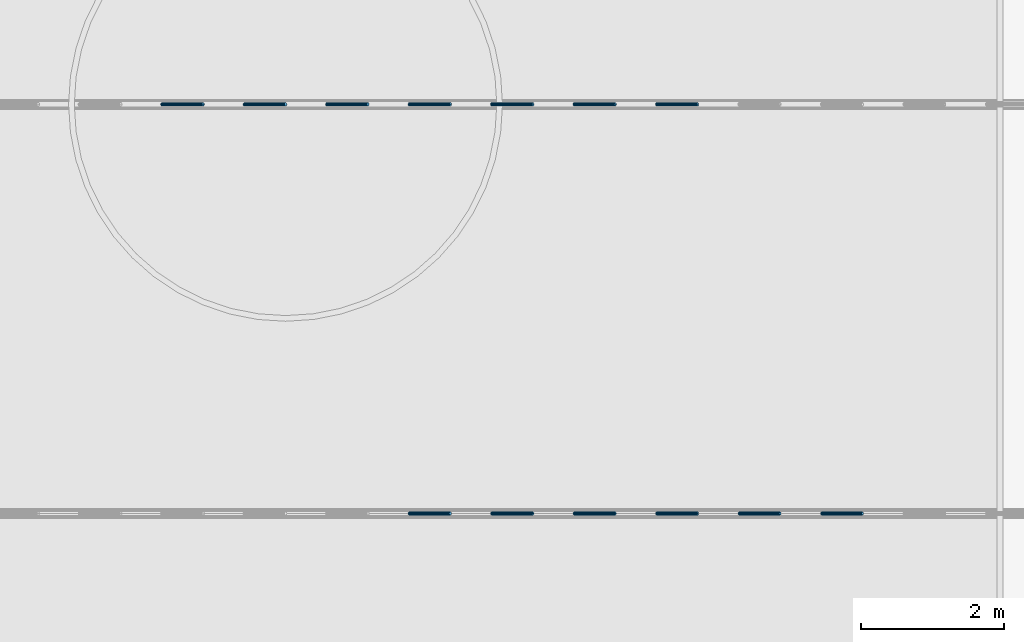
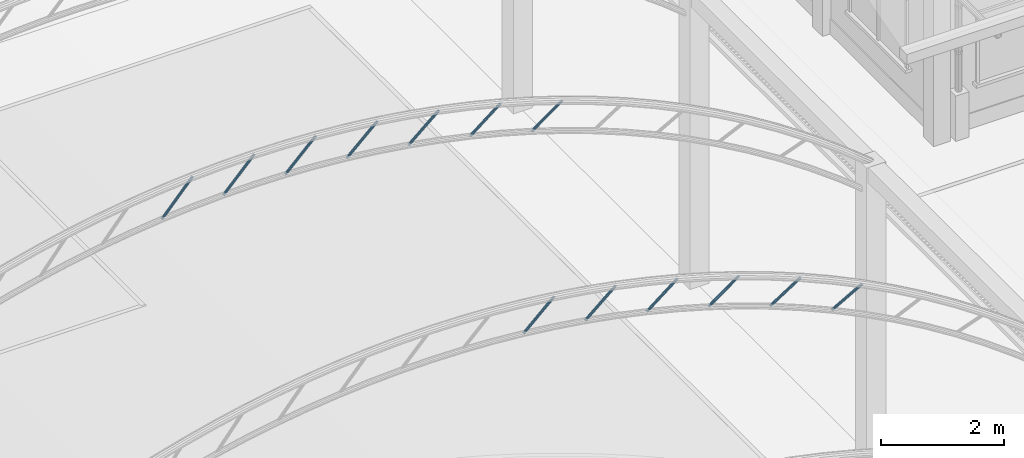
# One storey, part 27 of 151: 13 beams.
"""IFC2X3 building model written with IfcOpenShell, lengths in metres."""

import ifcopenshell
import ifcopenshell.guid

model = None  # the IFC model being written
_history = None  # IfcOwnerHistory: only IFC2X3 demands one
_inside = {}  # id of a spatial element -> (the spatial element, [elements in it])
_under = {}  # id of a project, library or spatial element -> (it, [spatial elements below it])
_declared = {}  # id of a project -> (the project, [libraries it declares])
_typed = {}  # id of a type object -> (the type object, [elements of that type])
_made_of = {}  # id of a material, layer set ... -> (it, [elements and type objects made of it])


def new_model(schema):
    """Start an empty IFC model of exactly this schema.

    Asked for "IFC4X3", IfcOpenShell would pick the latest addendum, in which some entities
    have other attributes; the version numbers below select the first issue.
    IFC2X3 requires an IfcOwnerHistory on every rooted entity: one is made here for all.
    """
    global model, _history
    if schema == "IFC4X3":
        model = ifcopenshell.file(schema_version=(4, 3, 0, 0))
    else:
        model = ifcopenshell.file(schema=schema)
    _inside.clear()
    _under.clear()
    _declared.clear()
    _typed.clear()
    _made_of.clear()
    _history = None
    if model.schema == "IFC2X3":
        org = make("IfcOrganization", Name="unknown")
        user = make(
            "IfcPersonAndOrganization",
            ThePerson=make("IfcPerson", FamilyName="unknown"),
            TheOrganization=org,
        )
        app = make(
            "IfcApplication",
            ApplicationDeveloper=org,
            Version="unknown",
            ApplicationFullName="unknown",
            ApplicationIdentifier="unknown",
        )
        _history = make(
            "IfcOwnerHistory",
            OwningUser=user,
            OwningApplication=app,
            ChangeAction="ADDED",
            CreationDate=0,
        )
    return model


def make(cls, **values):
    """One entity of the class cls with the attributes given. An attribute that is None is left unset."""
    return model.create_entity(
        cls, **{name: value for name, value in values.items() if value is not None}
    )


def rooted(cls, **values):
    """An entity with a GlobalId (a new one), such as an element, a storey or a relation."""
    return make(cls, GlobalId=ifcopenshell.guid.new(), OwnerHistory=_history, **values)


def si_unit(unit_type, name, prefix=None):
    """IfcSIUnit, for example si_unit("LENGTHUNIT", "METRE", prefix="MILLI")."""
    return make("IfcSIUnit", UnitType=unit_type, Prefix=prefix, Name=name)


def assignment(units):
    """IfcUnitAssignment: the units of a project."""
    return None if units is None else make("IfcUnitAssignment", Units=units)


def point(xyz):
    """IfcCartesianPoint."""
    return None if xyz is None else make("IfcCartesianPoint", Coordinates=xyz)


def direction(xyz):
    """IfcDirection."""
    return None if xyz is None else make("IfcDirection", DirectionRatios=xyz)


def frame(location, z_axis=None, x_axis=None):
    """IfcAxis2Placement3D, a coordinate frame: its origin and axes. An axis left out is left unset."""
    return make(
        "IfcAxis2Placement3D",
        Location=point(location),
        Axis=direction(z_axis),
        RefDirection=direction(x_axis),
    )


def origin():
    """The frame at (0, 0, 0) with its axes left unset."""
    return frame((0.0, 0.0, 0.0))


def origin_with_axes():
    """The frame at (0, 0, 0) with the z axis (0, 0, 1) and the x axis (1, 0, 0) written out."""
    return frame((0.0, 0.0, 0.0), z_axis=(0.0, 0.0, 1.0), x_axis=(1.0, 0.0, 0.0))


def place(relative_to, where):
    """IfcLocalPlacement: puts the frame where relative to a parent placement (None: the world)."""
    return make(
        "IfcLocalPlacement", PlacementRelTo=relative_to, RelativePlacement=where
    )


def context(
    kind, dimensions, precision=None, world=None, true_north=None, identifier=None
):
    """IfcGeometricRepresentationContext, for example the 3D "Model" context."""
    return make(
        "IfcGeometricRepresentationContext",
        ContextIdentifier=identifier,
        ContextType=kind,
        CoordinateSpaceDimension=dimensions,
        Precision=precision,
        WorldCoordinateSystem=world,
        TrueNorth=true_north,
    )


def subcontext(parent, identifier, kind, view, scale=None):
    """IfcGeometricRepresentationSubContext, for example "Body" below "Model"."""
    return make(
        "IfcGeometricRepresentationSubContext",
        ContextIdentifier=identifier,
        ContextType=kind,
        ParentContext=parent,
        TargetScale=scale,
        TargetView=view,
    )


def project(units=None, contexts=None):
    """IfcProject with its units and contexts."""
    return rooted(
        "IfcProject",
        Name="project",
        RepresentationContexts=contexts,
        UnitsInContext=assignment(units),
    )


def spatial(cls, under=None, at=None, **own):
    """A site, building, storey or space (cls), placed at a placement, below another one or the project."""
    s = rooted(cls, ObjectPlacement=at, **own)
    if under is not None:
        _under.setdefault(under.id(), (under, []))[1].append(s)
    return s


def faces_of(points, faces, orient=None, outer=None):
    """IfcFace entities. A face is a list of loops; a loop is a list of indices into points, from 0.

    orient and outer hold one flag for each loop. By default every Orientation is true, the
    first loop of a face is its IfcFaceOuterBound and the others are IfcFaceBound.
    """
    made = []
    for i, loops in enumerate(faces):
        bounds = []
        for j, loop in enumerate(loops):
            is_outer = j == 0 if outer is None else outer[i][j]
            bounds.append(
                make(
                    "IfcFaceOuterBound" if is_outer else "IfcFaceBound",
                    Bound=make("IfcPolyLoop", Polygon=[points[k] for k in loop]),
                    Orientation=True if orient is None else orient[i][j],
                )
            )
        made.append(make("IfcFace", Bounds=bounds))
    return made


def faceted_brep(points, faces, orient=None, outer=None, voids=None):
    """IfcFacetedBrep: a solid bounded by flat faces; with voids (closed shells), ...WithVoids."""
    shared = [point(p) for p in points]
    hull = make("IfcClosedShell", CfsFaces=faces_of(shared, faces, orient, outer))
    if voids is None:
        return make("IfcFacetedBrep", Outer=hull)
    return make(
        "IfcFacetedBrepWithVoids",
        Outer=hull,
        Voids=[
            make(cls, CfsFaces=faces_of(shared, fs, o, b)) for cls, fs, o, b in voids
        ],
    )


def shape(context_of_items, identifier, shape_type, items):
    """IfcShapeRepresentation: the items that make up one representation, for example the "Body"."""
    return make(
        "IfcShapeRepresentation",
        ContextOfItems=context_of_items,
        RepresentationIdentifier=identifier,
        RepresentationType=shape_type,
        Items=items,
    )


def made_of(thing, what):
    """Note that an element or type object is made of a material, layer set ...; save() writes the relation."""
    if what is not None:
        _made_of.setdefault(what.id(), (what, []))[1].append(thing)
    return thing


def element(
    cls,
    number,
    at=None,
    inside=None,
    cuts=None,
    type_object=None,
    material=None,
    context=None,
    identifier="Body",
    shape_type=None,
    held_by="IfcProductDefinitionShape",
    body=None,
    shapes=None,
    **own,
):
    """One element of the class cls, such as IfcWall. Its Tag is "e" and its number.

    at: its placement. inside: the storey or other place that contains it. cuts: it is an
    opening in that element (IfcRelVoidsElement). A single representation is given by context,
    identifier, shape_type and body (its items); several are given by shapes. held_by: the class
    of the entity that holds the representations. save() writes the other relations.
    """
    e = rooted(cls, Tag="e%d" % number, ObjectPlacement=at, **own)
    if body is not None:
        shapes = [shape(context, identifier, shape_type, body)]
    if shapes is not None:
        e.Representation = make(held_by, Representations=shapes)
    if inside is not None:
        _inside.setdefault(inside.id(), (inside, []))[1].append(e)
    if cuts is not None:
        rooted(
            "IfcRelVoidsElement", RelatingBuildingElement=cuts, RelatedOpeningElement=e
        )
    if type_object is not None:
        _typed.setdefault(type_object.id(), (type_object, []))[1].append(e)
    return made_of(e, material)


def aggregate(whole, parts):
    """IfcRelAggregates: a whole, such as a stair, and the parts it consists of."""
    return rooted("IfcRelAggregates", RelatingObject=whole, RelatedObjects=parts)


def save(model, path):
    """Write the relations noted so far, then the file.

    IfcRelAggregates (storeys below a building ...), IfcRelContainedInSpatialStructure (elements
    in a storey), IfcRelDefinesByType, IfcRelAssociatesMaterial and IfcRelDeclares: one each for
    every whole, place, type object, material and project.
    """
    for whole, parts in _under.values():
        aggregate(whole, parts)
    for where, things in _inside.values():
        rooted(
            "IfcRelContainedInSpatialStructure",
            RelatedElements=things,
            RelatingStructure=where,
        )
    for kind, things in _typed.values():
        rooted("IfcRelDefinesByType", RelatedObjects=things, RelatingType=kind)
    for what, things in _made_of.values():
        rooted("IfcRelAssociatesMaterial", RelatedObjects=things, RelatingMaterial=what)
    for by, libraries in _declared.values():
        rooted("IfcRelDeclares", RelatingContext=by, RelatedDefinitions=libraries)
    model.write(path)


model = new_model("IFC2X3")

# Units and contexts
model_context = context("Model", 3, precision=1e-05, world=origin_with_axes())
body_context = subcontext(model_context, "Body", "Model", "MODEL_VIEW")
ifc_project = project(units=[si_unit("LENGTHUNIT", "METRE"), si_unit("AREAUNIT", "SQUARE_METRE"), si_unit("VOLUMEUNIT", "CUBIC_METRE"), si_unit("PLANEANGLEUNIT", "RADIAN")], contexts=[model_context])

# Site, building, storey
site_placement = place(None, origin_with_axes())
site = spatial("IfcSite", under=ifc_project, at=site_placement, Name="Predio Los Mangos - Morales, San Martín", CompositionType="ELEMENT")
building_placement = place(site_placement, origin())
building = spatial("IfcBuilding", under=site, at=building_placement, Name="Hogar de Refugio Temporal", CompositionType="ELEMENT")
storey_placement = place(building_placement, origin())
storey = spatial("IfcBuildingStorey", under=building, at=storey_placement, Name="NIVEL 1 (NPT +0.00)", CompositionType="ELEMENT", Elevation=0.0)

# Beams
beam_1_placement = place(storey_placement, origin())
element("IfcBeam", 1, at=beam_1_placement, inside=storey, Name="diag", ObjectType="Viga", context=body_context, shape_type="Brep", body=[
    faceted_brep([(16.774, 104.0883, 9.4755), (17.3515, 104.0883, 10.0102), (17.36, 104.0917, 10.001), (16.7825, 104.0917, 9.4663), (16.7678, 104.0792, 9.4822), (17.3453, 104.0792, 10.0169), (16.7655, 104.0667, 9.4847), (17.343, 104.0667, 10.0193), (16.7678, 104.0542, 9.4822), (17.3453, 104.0542, 10.0169), (16.774, 104.045, 9.4755), (17.3515, 104.045, 10.0102), (16.7825, 104.0417, 9.4663), (17.36, 104.0417, 10.001), (16.791, 104.045, 9.4572), (17.3685, 104.045, 9.9918), (16.7972, 104.0542, 9.4505), (17.3747, 104.0542, 9.9851), (16.7995, 104.0667, 9.448), (17.377, 104.0667, 9.9827), (16.7972, 104.0792, 9.4505), (17.3747, 104.0792, 9.9851), (16.791, 104.0883, 9.4572), (17.3685, 104.0883, 9.9918), (16.781, 104.0704, 9.4679), (16.7825, 104.071, 9.4663), (17.36, 104.071, 10.001), (17.3585, 104.0704, 10.0026), (16.78, 104.0688, 9.4691), (17.3575, 104.0688, 10.0037), (16.7796, 104.0667, 9.4695), (17.3571, 104.0667, 10.0042), (16.78, 104.0645, 9.4691), (17.3575, 104.0645, 10.0037), (16.781, 104.0629, 9.4679), (17.3585, 104.0629, 10.0026), (16.7825, 104.0624, 9.4663), (17.36, 104.0624, 10.001), (16.784, 104.0629, 9.4648), (17.3615, 104.0629, 9.9994), (16.785, 104.0645, 9.4636), (17.3625, 104.0645, 9.9983), (16.7854, 104.0667, 9.4632), (17.3629, 104.0667, 9.9979), (16.785, 104.0688, 9.4636), (17.3625, 104.0688, 9.9983), (16.784, 104.0704, 9.4648), (17.3615, 104.0704, 9.9994)], [[[0, 1, 2, 3]], [[4, 5, 1, 0]], [[6, 7, 5, 4]], [[8, 9, 7, 6]], [[10, 11, 9, 8]], [[12, 13, 11, 10]], [[14, 15, 13, 12]], [[16, 17, 15, 14]], [[18, 19, 17, 16]], [[20, 21, 19, 18]], [[22, 23, 21, 20]], [[3, 2, 23, 22]], [[24, 25, 26, 27]], [[28, 24, 27, 29]], [[30, 28, 29, 31]], [[32, 30, 31, 33]], [[34, 32, 33, 35]], [[36, 34, 35, 37]], [[38, 36, 37, 39]], [[40, 38, 39, 41]], [[42, 40, 41, 43]], [[44, 42, 43, 45]], [[46, 44, 45, 47]], [[25, 46, 47, 26]], [[19, 21, 45, 43]], [[12, 10, 34, 36]], [[22, 20, 44, 46]], [[5, 7, 31, 29]], [[15, 17, 41, 39]], [[2, 1, 27, 26]], [[8, 6, 30, 32]], [[18, 16, 40, 42]], [[11, 13, 37, 35]], [[21, 23, 47, 45]], [[4, 0, 24, 28]], [[14, 12, 36, 38]], [[3, 22, 46, 25]], [[7, 9, 33, 31]], [[17, 19, 43, 41]], [[23, 2, 26, 47]], [[10, 8, 32, 34]], [[20, 18, 42, 44]], [[1, 5, 29, 27]], [[13, 15, 39, 37]], [[6, 4, 28, 30]], [[16, 14, 38, 40]], [[0, 3, 25, 24]], [[9, 11, 35, 33]]]),
])
beam_2_placement = place(storey_placement, origin())
element("IfcBeam", 2, at=beam_2_placement, inside=storey, Name="diag", ObjectType="Viga", context=body_context, shape_type="Brep", body=[
    faceted_brep([(17.9294, 104.0883, 9.3261), (18.5069, 104.0883, 9.8225), (18.515, 104.0917, 9.813), (17.9375, 104.0917, 9.3166), (17.9234, 104.0792, 9.3331), (18.5009, 104.0792, 9.8294), (17.9212, 104.0667, 9.3356), (18.4987, 104.0667, 9.8319), (17.9234, 104.0542, 9.3331), (18.5009, 104.0542, 9.8294), (17.9294, 104.045, 9.3261), (18.5069, 104.045, 9.8225), (17.9375, 104.0417, 9.3166), (18.515, 104.0417, 9.813), (17.9456, 104.045, 9.3072), (18.5231, 104.045, 9.8035), (17.9516, 104.0542, 9.3002), (18.5291, 104.0542, 9.7966), (17.9538, 104.0667, 9.2977), (18.5313, 104.0667, 9.794), (17.9516, 104.0792, 9.3002), (18.5291, 104.0792, 9.7966), (17.9456, 104.0883, 9.3072), (18.5231, 104.0883, 9.8035), (17.9361, 104.0704, 9.3183), (17.9375, 104.071, 9.3166), (18.515, 104.071, 9.813), (18.5136, 104.0704, 9.8146), (17.9351, 104.0688, 9.3195), (18.5126, 104.0688, 9.8158), (17.9347, 104.0667, 9.3199), (18.5122, 104.0667, 9.8162), (17.9351, 104.0645, 9.3195), (18.5126, 104.0645, 9.8158), (17.9361, 104.0629, 9.3183), (18.5136, 104.0629, 9.8146), (17.9375, 104.0624, 9.3166), (18.515, 104.0624, 9.813), (17.9389, 104.0629, 9.315), (18.5164, 104.0629, 9.8114), (17.9399, 104.0645, 9.3138), (18.5174, 104.0645, 9.8102), (17.9403, 104.0667, 9.3134), (18.5178, 104.0667, 9.8097), (17.9399, 104.0688, 9.3138), (18.5174, 104.0688, 9.8102), (17.9389, 104.0704, 9.315), (18.5164, 104.0704, 9.8114)], [[[0, 1, 2, 3]], [[4, 5, 1, 0]], [[6, 7, 5, 4]], [[8, 9, 7, 6]], [[10, 11, 9, 8]], [[12, 13, 11, 10]], [[14, 15, 13, 12]], [[16, 17, 15, 14]], [[18, 19, 17, 16]], [[20, 21, 19, 18]], [[22, 23, 21, 20]], [[3, 2, 23, 22]], [[24, 25, 26, 27]], [[28, 24, 27, 29]], [[30, 28, 29, 31]], [[32, 30, 31, 33]], [[34, 32, 33, 35]], [[36, 34, 35, 37]], [[38, 36, 37, 39]], [[40, 38, 39, 41]], [[42, 40, 41, 43]], [[44, 42, 43, 45]], [[46, 44, 45, 47]], [[25, 46, 47, 26]], [[19, 21, 45, 43]], [[12, 10, 34, 36]], [[22, 20, 44, 46]], [[5, 7, 31, 29]], [[15, 17, 41, 39]], [[2, 1, 27, 26]], [[8, 6, 30, 32]], [[18, 16, 40, 42]], [[11, 13, 37, 35]], [[21, 23, 47, 45]], [[4, 0, 24, 28]], [[14, 12, 36, 38]], [[3, 22, 46, 25]], [[7, 9, 33, 31]], [[17, 19, 43, 41]], [[23, 2, 26, 47]], [[10, 8, 32, 34]], [[20, 18, 42, 44]], [[1, 5, 29, 27]], [[13, 15, 39, 37]], [[6, 4, 28, 30]], [[16, 14, 38, 40]], [[0, 3, 25, 24]], [[9, 11, 35, 33]]]),
])
beam_3_placement = place(storey_placement, origin())
element("IfcBeam", 3, at=beam_3_placement, inside=storey, Name="diag", ObjectType="Viga", context=body_context, shape_type="Brep", body=[
    faceted_brep([(19.0847, 104.0883, 9.0995), (19.6622, 104.0883, 9.5562), (19.67, 104.0917, 9.5463), (19.0925, 104.0917, 9.0897), (19.0791, 104.0792, 9.1067), (19.6566, 104.0792, 9.5633), (19.077, 104.0667, 9.1093), (19.6545, 104.0667, 9.566), (19.0791, 104.0542, 9.1067), (19.6566, 104.0542, 9.5633), (19.0847, 104.045, 9.0995), (19.6622, 104.045, 9.5562), (19.0925, 104.0417, 9.0897), (19.67, 104.0417, 9.5463), (19.1003, 104.045, 9.0799), (19.6778, 104.045, 9.5365), (19.1059, 104.0542, 9.0727), (19.6834, 104.0542, 9.5294), (19.108, 104.0667, 9.0701), (19.6855, 104.0667, 9.5267), (19.1059, 104.0792, 9.0727), (19.6834, 104.0792, 9.5294), (19.1003, 104.0883, 9.0799), (19.6778, 104.0883, 9.5365), (19.0912, 104.0704, 9.0914), (19.0925, 104.071, 9.0897), (19.67, 104.071, 9.5463), (19.6687, 104.0704, 9.548), (19.0902, 104.0688, 9.0926), (19.6677, 104.0688, 9.5493), (19.0898, 104.0667, 9.0931), (19.6673, 104.0667, 9.5497), (19.0902, 104.0645, 9.0926), (19.6677, 104.0645, 9.5493), (19.0912, 104.0629, 9.0914), (19.6687, 104.0629, 9.548), (19.0925, 104.0624, 9.0897), (19.67, 104.0624, 9.5463), (19.0938, 104.0629, 9.088), (19.6713, 104.0629, 9.5447), (19.0948, 104.0645, 9.0868), (19.6723, 104.0645, 9.5434), (19.0952, 104.0667, 9.0863), (19.6727, 104.0667, 9.543), (19.0948, 104.0688, 9.0868), (19.6723, 104.0688, 9.5434), (19.0938, 104.0704, 9.088), (19.6713, 104.0704, 9.5447)], [[[0, 1, 2, 3]], [[4, 5, 1, 0]], [[6, 7, 5, 4]], [[8, 9, 7, 6]], [[10, 11, 9, 8]], [[12, 13, 11, 10]], [[14, 15, 13, 12]], [[16, 17, 15, 14]], [[18, 19, 17, 16]], [[20, 21, 19, 18]], [[22, 23, 21, 20]], [[3, 2, 23, 22]], [[24, 25, 26, 27]], [[28, 24, 27, 29]], [[30, 28, 29, 31]], [[32, 30, 31, 33]], [[34, 32, 33, 35]], [[36, 34, 35, 37]], [[38, 36, 37, 39]], [[40, 38, 39, 41]], [[42, 40, 41, 43]], [[44, 42, 43, 45]], [[46, 44, 45, 47]], [[25, 46, 47, 26]], [[19, 21, 45, 43]], [[12, 10, 34, 36]], [[22, 20, 44, 46]], [[5, 7, 31, 29]], [[15, 17, 41, 39]], [[2, 1, 27, 26]], [[8, 6, 30, 32]], [[18, 16, 40, 42]], [[11, 13, 37, 35]], [[21, 23, 47, 45]], [[4, 0, 24, 28]], [[14, 12, 36, 38]], [[3, 22, 46, 25]], [[7, 9, 33, 31]], [[17, 19, 43, 41]], [[23, 2, 26, 47]], [[10, 8, 32, 34]], [[20, 18, 42, 44]], [[1, 5, 29, 27]], [[13, 15, 39, 37]], [[6, 4, 28, 30]], [[16, 14, 38, 40]], [[0, 3, 25, 24]], [[9, 11, 35, 33]]]),
])
beam_4_placement = place(storey_placement, origin())
element("IfcBeam", 4, at=beam_4_placement, inside=storey, Name="diag", ObjectType="Viga", context=body_context, shape_type="Brep", body=[
    faceted_brep([(20.2402, 104.0883, 8.7926), (20.8177, 104.0883, 9.2075), (20.825, 104.0917, 9.1974), (20.2475, 104.0917, 8.7824), (20.2349, 104.0792, 8.8), (20.8124, 104.0792, 9.215), (20.2329, 104.0667, 8.8027), (20.8104, 104.0667, 9.2177), (20.2349, 104.0542, 8.8), (20.8124, 104.0542, 9.215), (20.2402, 104.045, 8.7926), (20.8177, 104.045, 9.2075), (20.2475, 104.0417, 8.7824), (20.825, 104.0417, 9.1974), (20.2548, 104.045, 8.7723), (20.8323, 104.045, 9.1872), (20.2601, 104.0542, 8.7649), (20.8376, 104.0542, 9.1798), (20.2621, 104.0667, 8.7621), (20.8396, 104.0667, 9.1771), (20.2601, 104.0792, 8.7649), (20.8376, 104.0792, 9.1798), (20.2548, 104.0883, 8.7723), (20.8323, 104.0883, 9.1872), (20.2462, 104.0704, 8.7842), (20.2475, 104.071, 8.7824), (20.825, 104.071, 9.1974), (20.8237, 104.0704, 9.1991), (20.2453, 104.0688, 8.7855), (20.8228, 104.0688, 9.2004), (20.245, 104.0667, 8.7859), (20.8225, 104.0667, 9.2009), (20.2453, 104.0645, 8.7855), (20.8228, 104.0645, 9.2004), (20.2462, 104.0629, 8.7842), (20.8237, 104.0629, 9.1991), (20.2475, 104.0624, 8.7824), (20.825, 104.0624, 9.1974), (20.2488, 104.0629, 8.7807), (20.8263, 104.0629, 9.1957), (20.2497, 104.0645, 8.7794), (20.8272, 104.0645, 9.1944), (20.25, 104.0667, 8.779), (20.8275, 104.0667, 9.1939), (20.2497, 104.0688, 8.7794), (20.8272, 104.0688, 9.1944), (20.2488, 104.0704, 8.7807), (20.8263, 104.0704, 9.1957)], [[[0, 1, 2, 3]], [[4, 5, 1, 0]], [[6, 7, 5, 4]], [[8, 9, 7, 6]], [[10, 11, 9, 8]], [[12, 13, 11, 10]], [[14, 15, 13, 12]], [[16, 17, 15, 14]], [[18, 19, 17, 16]], [[20, 21, 19, 18]], [[22, 23, 21, 20]], [[3, 2, 23, 22]], [[24, 25, 26, 27]], [[28, 24, 27, 29]], [[30, 28, 29, 31]], [[32, 30, 31, 33]], [[34, 32, 33, 35]], [[36, 34, 35, 37]], [[38, 36, 37, 39]], [[40, 38, 39, 41]], [[42, 40, 41, 43]], [[44, 42, 43, 45]], [[46, 44, 45, 47]], [[25, 46, 47, 26]], [[10, 8, 32, 34]], [[20, 18, 42, 44]], [[1, 5, 29, 27]], [[13, 15, 39, 37]], [[6, 4, 28, 30]], [[16, 14, 38, 40]], [[0, 3, 25, 24]], [[9, 11, 35, 33]], [[19, 21, 45, 43]], [[12, 10, 34, 36]], [[22, 20, 44, 46]], [[5, 7, 31, 29]], [[15, 17, 41, 39]], [[2, 1, 27, 26]], [[8, 6, 30, 32]], [[18, 16, 40, 42]], [[11, 13, 37, 35]], [[21, 23, 47, 45]], [[4, 0, 24, 28]], [[14, 12, 36, 38]], [[3, 22, 46, 25]], [[7, 9, 33, 31]], [[17, 19, 43, 41]], [[23, 2, 26, 47]]]),
])
beam_5_placement = place(storey_placement, origin())
element("IfcBeam", 5, at=beam_5_placement, inside=storey, Name="diag", ObjectType="Viga", context=body_context, shape_type="Brep", body=[
    faceted_brep([(21.3958, 104.0883, 8.401), (21.9733, 104.0883, 8.7715), (21.98, 104.0917, 8.7609), (21.4025, 104.0917, 8.3905), (21.3908, 104.0792, 8.4087), (21.9683, 104.0792, 8.7792), (21.389, 104.0667, 8.4115), (21.9665, 104.0667, 8.782), (21.3908, 104.0542, 8.4087), (21.9683, 104.0542, 8.7792), (21.3958, 104.045, 8.401), (21.9733, 104.045, 8.7715), (21.4025, 104.0417, 8.3905), (21.98, 104.0417, 8.7609), (21.4092, 104.045, 8.38), (21.9867, 104.045, 8.7504), (21.4142, 104.0542, 8.3723), (21.9917, 104.0542, 8.7427), (21.416, 104.0667, 8.3695), (21.9935, 104.0667, 8.7399), (21.4142, 104.0792, 8.3723), (21.9917, 104.0792, 8.7427), (21.4092, 104.0883, 8.38), (21.9867, 104.0883, 8.7504), (21.4013, 104.0704, 8.3923), (21.4025, 104.071, 8.3905), (21.98, 104.071, 8.7609), (21.9788, 104.0704, 8.7627), (21.4005, 104.0688, 8.3936), (21.978, 104.0688, 8.7641), (21.4002, 104.0667, 8.3941), (21.9777, 104.0667, 8.7645), (21.4005, 104.0645, 8.3936), (21.978, 104.0645, 8.7641), (21.4013, 104.0629, 8.3923), (21.9788, 104.0629, 8.7627), (21.4025, 104.0624, 8.3905), (21.98, 104.0624, 8.7609), (21.4037, 104.0629, 8.3887), (21.9812, 104.0629, 8.7591), (21.4045, 104.0645, 8.3874), (21.982, 104.0645, 8.7578), (21.4048, 104.0667, 8.3869), (21.9823, 104.0667, 8.7573), (21.4045, 104.0688, 8.3874), (21.982, 104.0688, 8.7578), (21.4037, 104.0704, 8.3887), (21.9812, 104.0704, 8.7591)], [[[0, 1, 2, 3]], [[4, 5, 1, 0]], [[6, 7, 5, 4]], [[8, 9, 7, 6]], [[10, 11, 9, 8]], [[12, 13, 11, 10]], [[14, 15, 13, 12]], [[16, 17, 15, 14]], [[18, 19, 17, 16]], [[20, 21, 19, 18]], [[22, 23, 21, 20]], [[3, 2, 23, 22]], [[24, 25, 26, 27]], [[28, 24, 27, 29]], [[30, 28, 29, 31]], [[32, 30, 31, 33]], [[34, 32, 33, 35]], [[36, 34, 35, 37]], [[38, 36, 37, 39]], [[40, 38, 39, 41]], [[42, 40, 41, 43]], [[44, 42, 43, 45]], [[46, 44, 45, 47]], [[25, 46, 47, 26]], [[19, 21, 45, 43]], [[12, 10, 34, 36]], [[22, 20, 44, 46]], [[5, 7, 31, 29]], [[15, 17, 41, 39]], [[2, 1, 27, 26]], [[8, 6, 30, 32]], [[18, 16, 40, 42]], [[11, 13, 37, 35]], [[21, 23, 47, 45]], [[4, 0, 24, 28]], [[14, 12, 36, 38]], [[3, 22, 46, 25]], [[7, 9, 33, 31]], [[17, 19, 43, 41]], [[23, 2, 26, 47]], [[10, 8, 32, 34]], [[20, 18, 42, 44]], [[1, 5, 29, 27]], [[13, 15, 39, 37]], [[6, 4, 28, 30]], [[16, 14, 38, 40]], [[0, 3, 25, 24]], [[9, 11, 35, 33]]]),
])
beam_6_placement = place(storey_placement, origin())
element("IfcBeam", 6, at=beam_6_placement, inside=storey, Name="diag", ObjectType="Viga", context=body_context, shape_type="Brep", body=[
    faceted_brep([(22.5514, 104.0883, 7.9187), (23.1289, 104.0883, 8.2407), (23.135, 104.0917, 8.2298), (22.5575, 104.0917, 7.9077), (22.547, 104.0792, 7.9267), (23.1245, 104.0792, 8.2487), (22.5453, 104.0667, 7.9296), (23.1228, 104.0667, 8.2517), (22.547, 104.0542, 7.9267), (23.1245, 104.0542, 8.2487), (22.5514, 104.045, 7.9187), (23.1289, 104.045, 8.2407), (22.5575, 104.0417, 7.9077), (23.135, 104.0417, 8.2298), (22.5636, 104.045, 7.8968), (23.1411, 104.045, 8.2189), (22.568, 104.0542, 7.8888), (23.1455, 104.0542, 8.2109), (22.5697, 104.0667, 7.8859), (23.1472, 104.0667, 8.208), (22.568, 104.0792, 7.8888), (23.1455, 104.0792, 8.2109), (22.5636, 104.0883, 7.8968), (23.1411, 104.0883, 8.2189), (22.5565, 104.0704, 7.9096), (22.5575, 104.071, 7.9077), (23.135, 104.071, 8.2298), (23.134, 104.0704, 8.2317), (22.5557, 104.0688, 7.911), (23.1332, 104.0688, 8.2331), (22.5554, 104.0667, 7.9115), (23.1329, 104.0667, 8.2336), (22.5557, 104.0645, 7.911), (23.1332, 104.0645, 8.2331), (22.5565, 104.0629, 7.9096), (23.134, 104.0629, 8.2317), (22.5575, 104.0624, 7.9077), (23.135, 104.0624, 8.2298), (22.5585, 104.0629, 7.9059), (23.136, 104.0629, 8.228), (22.5593, 104.0645, 7.9045), (23.1368, 104.0645, 8.2266), (22.5596, 104.0667, 7.904), (23.1371, 104.0667, 8.2261), (22.5593, 104.0688, 7.9045), (23.1368, 104.0688, 8.2266), (22.5585, 104.0704, 7.9059), (23.136, 104.0704, 8.228)], [[[0, 1, 2, 3]], [[4, 5, 1, 0]], [[6, 7, 5, 4]], [[8, 9, 7, 6]], [[10, 11, 9, 8]], [[12, 13, 11, 10]], [[14, 15, 13, 12]], [[16, 17, 15, 14]], [[18, 19, 17, 16]], [[20, 21, 19, 18]], [[22, 23, 21, 20]], [[3, 2, 23, 22]], [[24, 25, 26, 27]], [[28, 24, 27, 29]], [[30, 28, 29, 31]], [[32, 30, 31, 33]], [[34, 32, 33, 35]], [[36, 34, 35, 37]], [[38, 36, 37, 39]], [[40, 38, 39, 41]], [[42, 40, 41, 43]], [[44, 42, 43, 45]], [[46, 44, 45, 47]], [[25, 46, 47, 26]], [[19, 21, 45, 43]], [[12, 10, 34, 36]], [[22, 20, 44, 46]], [[5, 7, 31, 29]], [[15, 17, 41, 39]], [[2, 1, 27, 26]], [[8, 6, 30, 32]], [[18, 16, 40, 42]], [[11, 13, 37, 35]], [[21, 23, 47, 45]], [[4, 0, 24, 28]], [[14, 12, 36, 38]], [[3, 22, 46, 25]], [[7, 9, 33, 31]], [[17, 19, 43, 41]], [[23, 2, 26, 47]], [[10, 8, 32, 34]], [[20, 18, 42, 44]], [[1, 5, 29, 27]], [[13, 15, 39, 37]], [[6, 4, 28, 30]], [[16, 14, 38, 40]], [[0, 3, 25, 24]], [[9, 11, 35, 33]]]),
])
beam_7_placement = place(storey_placement, origin())
element("IfcBeam", 7, at=beam_7_placement, inside=storey, Name="diag", ObjectType="Viga", context=body_context, shape_type="Brep", body=[
    faceted_brep([(13.3082, 109.8217, 9.4747), (13.8857, 109.8217, 10.1212), (13.895, 109.825, 10.1129), (13.3175, 109.825, 9.4663), (13.3014, 109.8125, 9.4808), (13.8789, 109.8125, 10.1273), (13.2989, 109.8, 9.483), (13.8764, 109.8, 10.1295), (13.3014, 109.7875, 9.4808), (13.8789, 109.7875, 10.1273), (13.3082, 109.7784, 9.4747), (13.8857, 109.7784, 10.1212), (13.3175, 109.775, 9.4663), (13.895, 109.775, 10.1129), (13.3268, 109.7784, 9.458), (13.9043, 109.7784, 10.1045), (13.3336, 109.7875, 9.4519), (13.9111, 109.7875, 10.0984), (13.3361, 109.8, 9.4497), (13.9136, 109.8, 10.0962), (13.3336, 109.8125, 9.4519), (13.9111, 109.8125, 10.0984), (13.3268, 109.8217, 9.458), (13.9043, 109.8217, 10.1045), (13.3159, 109.8037, 9.4678), (13.3175, 109.8043, 9.4663), (13.895, 109.8043, 10.1129), (13.8934, 109.8037, 10.1143), (13.3147, 109.8021, 9.4688), (13.8922, 109.8021, 10.1153), (13.3143, 109.8, 9.4692), (13.8918, 109.8, 10.1157), (13.3147, 109.7979, 9.4688), (13.8922, 109.7979, 10.1153), (13.3159, 109.7963, 9.4678), (13.8934, 109.7963, 10.1143), (13.3175, 109.7957, 9.4663), (13.895, 109.7957, 10.1129), (13.3191, 109.7963, 9.4649), (13.8966, 109.7963, 10.1114), (13.3203, 109.7979, 9.4639), (13.8978, 109.7979, 10.1104), (13.3207, 109.8, 9.4635), (13.8982, 109.8, 10.11), (13.3203, 109.8021, 9.4639), (13.8978, 109.8021, 10.1104), (13.3191, 109.8037, 9.4649), (13.8966, 109.8037, 10.1114)], [[[0, 1, 2, 3]], [[4, 5, 1, 0]], [[6, 7, 5, 4]], [[8, 9, 7, 6]], [[10, 11, 9, 8]], [[12, 13, 11, 10]], [[14, 15, 13, 12]], [[16, 17, 15, 14]], [[18, 19, 17, 16]], [[20, 21, 19, 18]], [[22, 23, 21, 20]], [[3, 2, 23, 22]], [[24, 25, 26, 27]], [[28, 24, 27, 29]], [[30, 28, 29, 31]], [[32, 30, 31, 33]], [[34, 32, 33, 35]], [[36, 34, 35, 37]], [[38, 36, 37, 39]], [[40, 38, 39, 41]], [[42, 40, 41, 43]], [[44, 42, 43, 45]], [[46, 44, 45, 47]], [[25, 46, 47, 26]], [[10, 8, 32, 34]], [[20, 18, 42, 44]], [[1, 5, 29, 27]], [[13, 15, 39, 37]], [[6, 4, 28, 30]], [[16, 14, 38, 40]], [[0, 3, 25, 24]], [[9, 11, 35, 33]], [[19, 21, 45, 43]], [[12, 10, 34, 36]], [[22, 20, 44, 46]], [[5, 7, 31, 29]], [[15, 17, 41, 39]], [[2, 1, 27, 26]], [[8, 6, 30, 32]], [[18, 16, 40, 42]], [[11, 13, 37, 35]], [[21, 23, 47, 45]], [[4, 0, 24, 28]], [[14, 12, 36, 38]], [[3, 22, 46, 25]], [[7, 9, 33, 31]], [[17, 19, 43, 41]], [[23, 2, 26, 47]]]),
])
beam_8_placement = place(storey_placement, origin())
element("IfcBeam", 8, at=beam_8_placement, inside=storey, Name="diag", ObjectType="Viga", context=body_context, shape_type="Brep", body=[
    faceted_brep([(14.4634, 109.8217, 9.5493), (15.0409, 109.8217, 10.1586), (15.05, 109.825, 10.15), (14.4725, 109.825, 9.5407), (14.4568, 109.8125, 9.5556), (15.0343, 109.8125, 10.1649), (14.4544, 109.8, 9.5579), (15.0319, 109.8, 10.1672), (14.4568, 109.7875, 9.5556), (15.0343, 109.7875, 10.1649), (14.4634, 109.7784, 9.5493), (15.0409, 109.7784, 10.1586), (14.4725, 109.775, 9.5407), (15.05, 109.775, 10.15), (14.4816, 109.7784, 9.5321), (15.0591, 109.7784, 10.1414), (14.4882, 109.7875, 9.5258), (15.0657, 109.7875, 10.1351), (14.4906, 109.8, 9.5235), (15.0681, 109.8, 10.1328), (14.4882, 109.8125, 9.5258), (15.0657, 109.8125, 10.1351), (14.4816, 109.8217, 9.5321), (15.0591, 109.8217, 10.1414), (14.4709, 109.8037, 9.5422), (14.4725, 109.8043, 9.5407), (15.05, 109.8043, 10.15), (15.0484, 109.8037, 10.1515), (14.4698, 109.8021, 9.5433), (15.0473, 109.8021, 10.1526), (14.4694, 109.8, 9.5437), (15.0469, 109.8, 10.153), (14.4698, 109.7979, 9.5433), (15.0473, 109.7979, 10.1526), (14.4709, 109.7963, 9.5422), (15.0484, 109.7963, 10.1515), (14.4725, 109.7957, 9.5407), (15.05, 109.7957, 10.15), (14.4741, 109.7963, 9.5392), (15.0516, 109.7963, 10.1485), (14.4752, 109.7979, 9.5382), (15.0527, 109.7979, 10.1474), (14.4756, 109.8, 9.5378), (15.0531, 109.8, 10.147), (14.4752, 109.8021, 9.5382), (15.0527, 109.8021, 10.1474), (14.4741, 109.8037, 9.5392), (15.0516, 109.8037, 10.1485)], [[[0, 1, 2, 3]], [[4, 5, 1, 0]], [[6, 7, 5, 4]], [[8, 9, 7, 6]], [[10, 11, 9, 8]], [[12, 13, 11, 10]], [[14, 15, 13, 12]], [[16, 17, 15, 14]], [[18, 19, 17, 16]], [[20, 21, 19, 18]], [[22, 23, 21, 20]], [[3, 2, 23, 22]], [[24, 25, 26, 27]], [[28, 24, 27, 29]], [[30, 28, 29, 31]], [[32, 30, 31, 33]], [[34, 32, 33, 35]], [[36, 34, 35, 37]], [[38, 36, 37, 39]], [[40, 38, 39, 41]], [[42, 40, 41, 43]], [[44, 42, 43, 45]], [[46, 44, 45, 47]], [[25, 46, 47, 26]], [[10, 8, 32, 34]], [[20, 18, 42, 44]], [[1, 5, 29, 27]], [[13, 15, 39, 37]], [[6, 4, 28, 30]], [[16, 14, 38, 40]], [[0, 3, 25, 24]], [[9, 11, 35, 33]], [[19, 21, 45, 43]], [[12, 10, 34, 36]], [[22, 20, 44, 46]], [[5, 7, 31, 29]], [[15, 17, 41, 39]], [[2, 1, 27, 26]], [[8, 6, 30, 32]], [[18, 16, 40, 42]], [[11, 13, 37, 35]], [[21, 23, 47, 45]], [[4, 0, 24, 28]], [[14, 12, 36, 38]], [[3, 22, 46, 25]], [[7, 9, 33, 31]], [[17, 19, 43, 41]], [[23, 2, 26, 47]]]),
])
beam_9_placement = place(storey_placement, origin())
element("IfcBeam", 9, at=beam_9_placement, inside=storey, Name="diag", ObjectType="Viga", context=body_context, shape_type="Brep", body=[
    faceted_brep([(15.6187, 109.8217, 9.5496), (16.1962, 109.8217, 10.1217), (16.205, 109.825, 10.1129), (15.6275, 109.825, 9.5407), (15.6123, 109.8125, 9.5561), (16.1898, 109.8125, 10.1282), (15.6099, 109.8, 9.5585), (16.1874, 109.8, 10.1306), (15.6123, 109.7875, 9.5561), (16.1898, 109.7875, 10.1282), (15.6187, 109.7784, 9.5496), (16.1962, 109.7784, 10.1217), (15.6275, 109.775, 9.5407), (16.205, 109.775, 10.1129), (15.6363, 109.7784, 9.5318), (16.2138, 109.7784, 10.104), (15.6427, 109.7875, 9.5253), (16.2202, 109.7875, 10.0975), (15.6451, 109.8, 9.523), (16.2226, 109.8, 10.0951), (15.6427, 109.8125, 9.5253), (16.2202, 109.8125, 10.0975), (15.6363, 109.8217, 9.5318), (16.2138, 109.8217, 10.104), (15.626, 109.8037, 9.5422), (15.6275, 109.8043, 9.5407), (16.205, 109.8043, 10.1129), (16.2035, 109.8037, 10.1144), (15.6249, 109.8021, 9.5434), (16.2024, 109.8021, 10.1155), (15.6245, 109.8, 9.5438), (16.202, 109.8, 10.1159), (15.6249, 109.7979, 9.5434), (16.2024, 109.7979, 10.1155), (15.626, 109.7963, 9.5422), (16.2035, 109.7963, 10.1144), (15.6275, 109.7957, 9.5407), (16.205, 109.7957, 10.1129), (15.629, 109.7963, 9.5392), (16.2065, 109.7963, 10.1113), (15.6301, 109.7979, 9.5381), (16.2076, 109.7979, 10.1102), (15.6305, 109.8, 9.5377), (16.208, 109.8, 10.1098), (15.6301, 109.8021, 9.5381), (16.2076, 109.8021, 10.1102), (15.629, 109.8037, 9.5392), (16.2065, 109.8037, 10.1113)], [[[0, 1, 2, 3]], [[4, 5, 1, 0]], [[6, 7, 5, 4]], [[8, 9, 7, 6]], [[10, 11, 9, 8]], [[12, 13, 11, 10]], [[14, 15, 13, 12]], [[16, 17, 15, 14]], [[18, 19, 17, 16]], [[20, 21, 19, 18]], [[22, 23, 21, 20]], [[3, 2, 23, 22]], [[24, 25, 26, 27]], [[28, 24, 27, 29]], [[30, 28, 29, 31]], [[32, 30, 31, 33]], [[34, 32, 33, 35]], [[36, 34, 35, 37]], [[38, 36, 37, 39]], [[40, 38, 39, 41]], [[42, 40, 41, 43]], [[44, 42, 43, 45]], [[46, 44, 45, 47]], [[25, 46, 47, 26]], [[10, 8, 32, 34]], [[20, 18, 42, 44]], [[1, 5, 29, 27]], [[13, 15, 39, 37]], [[6, 4, 28, 30]], [[16, 14, 38, 40]], [[0, 3, 25, 24]], [[9, 11, 35, 33]], [[19, 21, 45, 43]], [[12, 10, 34, 36]], [[22, 20, 44, 46]], [[5, 7, 31, 29]], [[15, 17, 41, 39]], [[2, 1, 27, 26]], [[8, 6, 30, 32]], [[18, 16, 40, 42]], [[11, 13, 37, 35]], [[21, 23, 47, 45]], [[4, 0, 24, 28]], [[14, 12, 36, 38]], [[3, 22, 46, 25]], [[7, 9, 33, 31]], [[17, 19, 43, 41]], [[23, 2, 26, 47]]]),
])
beam_10_placement = place(storey_placement, origin())
element("IfcBeam", 10, at=beam_10_placement, inside=storey, Name="diag", ObjectType="Viga", context=body_context, shape_type="Brep", body=[
    faceted_brep([(16.774, 109.8217, 9.4755), (17.3515, 109.8217, 10.0102), (17.36, 109.825, 10.001), (16.7825, 109.825, 9.4663), (16.7678, 109.8125, 9.4822), (17.3453, 109.8125, 10.0169), (16.7655, 109.8, 9.4847), (17.343, 109.8, 10.0193), (16.7678, 109.7875, 9.4822), (17.3453, 109.7875, 10.0169), (16.774, 109.7784, 9.4755), (17.3515, 109.7784, 10.0102), (16.7825, 109.775, 9.4663), (17.36, 109.775, 10.001), (16.791, 109.7784, 9.4572), (17.3685, 109.7784, 9.9918), (16.7972, 109.7875, 9.4505), (17.3747, 109.7875, 9.9851), (16.7995, 109.8, 9.448), (17.377, 109.8, 9.9827), (16.7972, 109.8125, 9.4505), (17.3747, 109.8125, 9.9851), (16.791, 109.8217, 9.4572), (17.3685, 109.8217, 9.9918), (16.781, 109.8037, 9.4679), (16.7825, 109.8043, 9.4663), (17.36, 109.8043, 10.001), (17.3585, 109.8037, 10.0026), (16.78, 109.8021, 9.4691), (17.3575, 109.8021, 10.0037), (16.7796, 109.8, 9.4695), (17.3571, 109.8, 10.0042), (16.78, 109.7979, 9.4691), (17.3575, 109.7979, 10.0037), (16.781, 109.7963, 9.4679), (17.3585, 109.7963, 10.0026), (16.7825, 109.7957, 9.4663), (17.36, 109.7957, 10.001), (16.784, 109.7963, 9.4648), (17.3615, 109.7963, 9.9994), (16.785, 109.7979, 9.4636), (17.3625, 109.7979, 9.9983), (16.7854, 109.8, 9.4632), (17.3629, 109.8, 9.9979), (16.785, 109.8021, 9.4636), (17.3625, 109.8021, 9.9983), (16.784, 109.8037, 9.4648), (17.3615, 109.8037, 9.9994)], [[[0, 1, 2, 3]], [[4, 5, 1, 0]], [[6, 7, 5, 4]], [[8, 9, 7, 6]], [[10, 11, 9, 8]], [[12, 13, 11, 10]], [[14, 15, 13, 12]], [[16, 17, 15, 14]], [[18, 19, 17, 16]], [[20, 21, 19, 18]], [[22, 23, 21, 20]], [[3, 2, 23, 22]], [[24, 25, 26, 27]], [[28, 24, 27, 29]], [[30, 28, 29, 31]], [[32, 30, 31, 33]], [[34, 32, 33, 35]], [[36, 34, 35, 37]], [[38, 36, 37, 39]], [[40, 38, 39, 41]], [[42, 40, 41, 43]], [[44, 42, 43, 45]], [[46, 44, 45, 47]], [[25, 46, 47, 26]], [[10, 8, 32, 34]], [[20, 18, 42, 44]], [[1, 5, 29, 27]], [[13, 15, 39, 37]], [[6, 4, 28, 30]], [[16, 14, 38, 40]], [[0, 3, 25, 24]], [[9, 11, 35, 33]], [[19, 21, 45, 43]], [[12, 10, 34, 36]], [[22, 20, 44, 46]], [[5, 7, 31, 29]], [[15, 17, 41, 39]], [[2, 1, 27, 26]], [[8, 6, 30, 32]], [[18, 16, 40, 42]], [[11, 13, 37, 35]], [[21, 23, 47, 45]], [[4, 0, 24, 28]], [[14, 12, 36, 38]], [[3, 22, 46, 25]], [[7, 9, 33, 31]], [[17, 19, 43, 41]], [[23, 2, 26, 47]]]),
])
beam_11_placement = place(storey_placement, origin())
element("IfcBeam", 11, at=beam_11_placement, inside=storey, Name="diag", ObjectType="Viga", context=body_context, shape_type="Brep", body=[
    faceted_brep([(17.9294, 109.8217, 9.3261), (18.5069, 109.8217, 9.8225), (18.515, 109.825, 9.813), (17.9375, 109.825, 9.3166), (17.9234, 109.8125, 9.3331), (18.5009, 109.8125, 9.8294), (17.9212, 109.8, 9.3356), (18.4987, 109.8, 9.8319), (17.9234, 109.7875, 9.3331), (18.5009, 109.7875, 9.8294), (17.9294, 109.7784, 9.3261), (18.5069, 109.7784, 9.8225), (17.9375, 109.775, 9.3166), (18.515, 109.775, 9.813), (17.9456, 109.7784, 9.3072), (18.5231, 109.7784, 9.8035), (17.9516, 109.7875, 9.3002), (18.5291, 109.7875, 9.7966), (17.9538, 109.8, 9.2977), (18.5313, 109.8, 9.794), (17.9516, 109.8125, 9.3002), (18.5291, 109.8125, 9.7966), (17.9456, 109.8217, 9.3072), (18.5231, 109.8217, 9.8035), (17.9361, 109.8037, 9.3183), (17.9375, 109.8043, 9.3166), (18.515, 109.8043, 9.813), (18.5136, 109.8037, 9.8146), (17.9351, 109.8021, 9.3195), (18.5126, 109.8021, 9.8158), (17.9347, 109.8, 9.3199), (18.5122, 109.8, 9.8162), (17.9351, 109.7979, 9.3195), (18.5126, 109.7979, 9.8158), (17.9361, 109.7963, 9.3183), (18.5136, 109.7963, 9.8146), (17.9375, 109.7957, 9.3166), (18.515, 109.7957, 9.813), (17.9389, 109.7963, 9.315), (18.5164, 109.7963, 9.8114), (17.9399, 109.7979, 9.3138), (18.5174, 109.7979, 9.8102), (17.9403, 109.8, 9.3134), (18.5178, 109.8, 9.8097), (17.9399, 109.8021, 9.3138), (18.5174, 109.8021, 9.8102), (17.9389, 109.8037, 9.315), (18.5164, 109.8037, 9.8114)], [[[0, 1, 2, 3]], [[4, 5, 1, 0]], [[6, 7, 5, 4]], [[8, 9, 7, 6]], [[10, 11, 9, 8]], [[12, 13, 11, 10]], [[14, 15, 13, 12]], [[16, 17, 15, 14]], [[18, 19, 17, 16]], [[20, 21, 19, 18]], [[22, 23, 21, 20]], [[3, 2, 23, 22]], [[24, 25, 26, 27]], [[28, 24, 27, 29]], [[30, 28, 29, 31]], [[32, 30, 31, 33]], [[34, 32, 33, 35]], [[36, 34, 35, 37]], [[38, 36, 37, 39]], [[40, 38, 39, 41]], [[42, 40, 41, 43]], [[44, 42, 43, 45]], [[46, 44, 45, 47]], [[25, 46, 47, 26]], [[10, 8, 32, 34]], [[20, 18, 42, 44]], [[1, 5, 29, 27]], [[13, 15, 39, 37]], [[6, 4, 28, 30]], [[16, 14, 38, 40]], [[0, 3, 25, 24]], [[9, 11, 35, 33]], [[19, 21, 45, 43]], [[12, 10, 34, 36]], [[22, 20, 44, 46]], [[5, 7, 31, 29]], [[15, 17, 41, 39]], [[2, 1, 27, 26]], [[8, 6, 30, 32]], [[18, 16, 40, 42]], [[11, 13, 37, 35]], [[21, 23, 47, 45]], [[4, 0, 24, 28]], [[14, 12, 36, 38]], [[3, 22, 46, 25]], [[7, 9, 33, 31]], [[17, 19, 43, 41]], [[23, 2, 26, 47]]]),
])
beam_12_placement = place(storey_placement, origin())
element("IfcBeam", 12, at=beam_12_placement, inside=storey, Name="diag", ObjectType="Viga", context=body_context, shape_type="Brep", body=[
    faceted_brep([(19.0847, 109.8217, 9.0995), (19.6622, 109.8217, 9.5562), (19.67, 109.825, 9.5463), (19.0925, 109.825, 9.0897), (19.0791, 109.8125, 9.1067), (19.6566, 109.8125, 9.5633), (19.077, 109.8, 9.1093), (19.6545, 109.8, 9.566), (19.0791, 109.7875, 9.1067), (19.6566, 109.7875, 9.5633), (19.0847, 109.7784, 9.0995), (19.6622, 109.7784, 9.5562), (19.0925, 109.775, 9.0897), (19.67, 109.775, 9.5463), (19.1003, 109.7784, 9.0799), (19.6778, 109.7784, 9.5365), (19.1059, 109.7875, 9.0727), (19.6834, 109.7875, 9.5294), (19.108, 109.8, 9.0701), (19.6855, 109.8, 9.5267), (19.1059, 109.8125, 9.0727), (19.6834, 109.8125, 9.5294), (19.1003, 109.8217, 9.0799), (19.6778, 109.8217, 9.5365), (19.0912, 109.8037, 9.0914), (19.0925, 109.8043, 9.0897), (19.67, 109.8043, 9.5463), (19.6687, 109.8037, 9.548), (19.0902, 109.8021, 9.0926), (19.6677, 109.8021, 9.5493), (19.0898, 109.8, 9.0931), (19.6673, 109.8, 9.5497), (19.0902, 109.7979, 9.0926), (19.6677, 109.7979, 9.5493), (19.0912, 109.7963, 9.0914), (19.6687, 109.7963, 9.548), (19.0925, 109.7957, 9.0897), (19.67, 109.7957, 9.5463), (19.0938, 109.7963, 9.088), (19.6713, 109.7963, 9.5447), (19.0948, 109.7979, 9.0868), (19.6723, 109.7979, 9.5434), (19.0952, 109.8, 9.0863), (19.6727, 109.8, 9.543), (19.0948, 109.8021, 9.0868), (19.6723, 109.8021, 9.5434), (19.0938, 109.8037, 9.088), (19.6713, 109.8037, 9.5447)], [[[0, 1, 2, 3]], [[4, 5, 1, 0]], [[6, 7, 5, 4]], [[8, 9, 7, 6]], [[10, 11, 9, 8]], [[12, 13, 11, 10]], [[14, 15, 13, 12]], [[16, 17, 15, 14]], [[18, 19, 17, 16]], [[20, 21, 19, 18]], [[22, 23, 21, 20]], [[3, 2, 23, 22]], [[24, 25, 26, 27]], [[28, 24, 27, 29]], [[30, 28, 29, 31]], [[32, 30, 31, 33]], [[34, 32, 33, 35]], [[36, 34, 35, 37]], [[38, 36, 37, 39]], [[40, 38, 39, 41]], [[42, 40, 41, 43]], [[44, 42, 43, 45]], [[46, 44, 45, 47]], [[25, 46, 47, 26]], [[10, 8, 32, 34]], [[20, 18, 42, 44]], [[1, 5, 29, 27]], [[13, 15, 39, 37]], [[6, 4, 28, 30]], [[16, 14, 38, 40]], [[0, 3, 25, 24]], [[9, 11, 35, 33]], [[19, 21, 45, 43]], [[12, 10, 34, 36]], [[22, 20, 44, 46]], [[5, 7, 31, 29]], [[15, 17, 41, 39]], [[2, 1, 27, 26]], [[8, 6, 30, 32]], [[18, 16, 40, 42]], [[11, 13, 37, 35]], [[21, 23, 47, 45]], [[4, 0, 24, 28]], [[14, 12, 36, 38]], [[3, 22, 46, 25]], [[7, 9, 33, 31]], [[17, 19, 43, 41]], [[23, 2, 26, 47]]]),
])
beam_13_placement = place(storey_placement, origin())
element("IfcBeam", 13, at=beam_13_placement, inside=storey, Name="diag", ObjectType="Viga", context=body_context, shape_type="Brep", body=[
    faceted_brep([(20.2402, 109.8217, 8.7926), (20.8177, 109.8217, 9.2075), (20.825, 109.825, 9.1974), (20.2475, 109.825, 8.7824), (20.2349, 109.8125, 8.8), (20.8124, 109.8125, 9.215), (20.2329, 109.8, 8.8027), (20.8104, 109.8, 9.2177), (20.2349, 109.7875, 8.8), (20.8124, 109.7875, 9.215), (20.2402, 109.7784, 8.7926), (20.8177, 109.7784, 9.2075), (20.2475, 109.775, 8.7824), (20.825, 109.775, 9.1974), (20.2548, 109.7784, 8.7723), (20.8323, 109.7784, 9.1872), (20.2601, 109.7875, 8.7649), (20.8376, 109.7875, 9.1798), (20.2621, 109.8, 8.7621), (20.8396, 109.8, 9.1771), (20.2601, 109.8125, 8.7649), (20.8376, 109.8125, 9.1798), (20.2548, 109.8217, 8.7723), (20.8323, 109.8217, 9.1872), (20.2462, 109.8037, 8.7842), (20.2475, 109.8043, 8.7824), (20.825, 109.8043, 9.1974), (20.8237, 109.8037, 9.1991), (20.2453, 109.8021, 8.7855), (20.8228, 109.8021, 9.2004), (20.245, 109.8, 8.7859), (20.8225, 109.8, 9.2009), (20.2453, 109.7979, 8.7855), (20.8228, 109.7979, 9.2004), (20.2462, 109.7963, 8.7842), (20.8237, 109.7963, 9.1991), (20.2475, 109.7957, 8.7824), (20.825, 109.7957, 9.1974), (20.2488, 109.7963, 8.7807), (20.8263, 109.7963, 9.1957), (20.2497, 109.7979, 8.7794), (20.8272, 109.7979, 9.1944), (20.25, 109.8, 8.779), (20.8275, 109.8, 9.1939), (20.2497, 109.8021, 8.7794), (20.8272, 109.8021, 9.1944), (20.2488, 109.8037, 8.7807), (20.8263, 109.8037, 9.1957)], [[[0, 1, 2, 3]], [[4, 5, 1, 0]], [[6, 7, 5, 4]], [[8, 9, 7, 6]], [[10, 11, 9, 8]], [[12, 13, 11, 10]], [[14, 15, 13, 12]], [[16, 17, 15, 14]], [[18, 19, 17, 16]], [[20, 21, 19, 18]], [[22, 23, 21, 20]], [[3, 2, 23, 22]], [[24, 25, 26, 27]], [[28, 24, 27, 29]], [[30, 28, 29, 31]], [[32, 30, 31, 33]], [[34, 32, 33, 35]], [[36, 34, 35, 37]], [[38, 36, 37, 39]], [[40, 38, 39, 41]], [[42, 40, 41, 43]], [[44, 42, 43, 45]], [[46, 44, 45, 47]], [[25, 46, 47, 26]], [[21, 23, 47, 45]], [[4, 0, 24, 28]], [[14, 12, 36, 38]], [[3, 22, 46, 25]], [[7, 9, 33, 31]], [[17, 19, 43, 41]], [[23, 2, 26, 47]], [[10, 8, 32, 34]], [[20, 18, 42, 44]], [[1, 5, 29, 27]], [[13, 15, 39, 37]], [[6, 4, 28, 30]], [[16, 14, 38, 40]], [[0, 3, 25, 24]], [[9, 11, 35, 33]], [[19, 21, 45, 43]], [[12, 10, 34, 36]], [[22, 20, 44, 46]], [[5, 7, 31, 29]], [[15, 17, 41, 39]], [[2, 1, 27, 26]], [[8, 6, 30, 32]], [[18, 16, 40, 42]], [[11, 13, 37, 35]]]),
])

save(model, "model.ifc")
